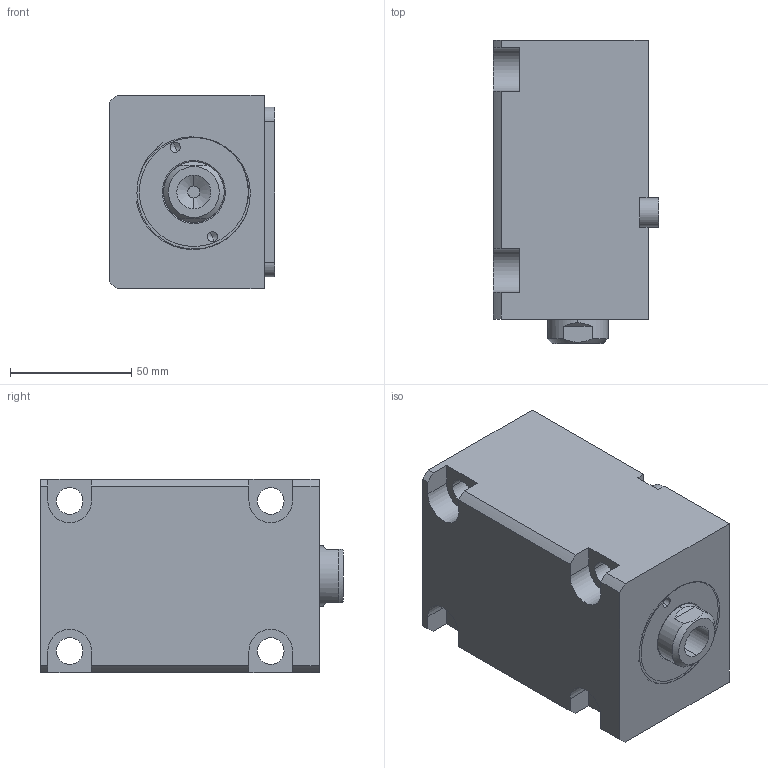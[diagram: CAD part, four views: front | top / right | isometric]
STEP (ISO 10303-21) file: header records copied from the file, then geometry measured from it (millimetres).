
FILE_DESCRIPTION (( 'STEP AP214' ), '1' );
FILE_NAME ('chtb-lam40x60n_asm.STEP', '2018-05-29T08:05:31', ( 'Windows' ), ( 'Microsoft' ), 'SwSTEP 2.0', 'SolidWorks 2015', '' );
FILE_SCHEMA (( 'AUTOMOTIVE_DESIGN' ));
Length unit declared in the file: millimetre
Products named in the file (5): CHTB-SD40X60NHSG; CHTB-SD40QG; CHTB-LAM40X60NBT; CHTB-LA40PJ; chtb-lam40x60n_asm
Assembly tree (4 placements, depth 2):
  chtb-lam40x60n_asm
    CHTB-LA40PJ
    CHTB-LAM40X60NBT
    CHTB-SD40QG
    CHTB-SD40X60NHSG
Bounding box: 68.5 x 125 x 80 mm (x, y, z)
Volume: 506546.5 mm3; surface area: 93927.8 mm2
Topology: 4 solids, 4 shells, 154 faces, 418 edges, 278 vertices
Faces by surface type: cylinder 73, plane 46, bspline 14, torus 12, cone 9
Entity records: 10092 total; most frequent: CARTESIAN_POINT 6074, ORIENTED_EDGE 824, DIRECTION 755, EDGE_CURVE 412, AXIS2_PLACEMENT_3D 300, VERTEX_POINT 278, EDGE_LOOP 180, VECTOR 155
